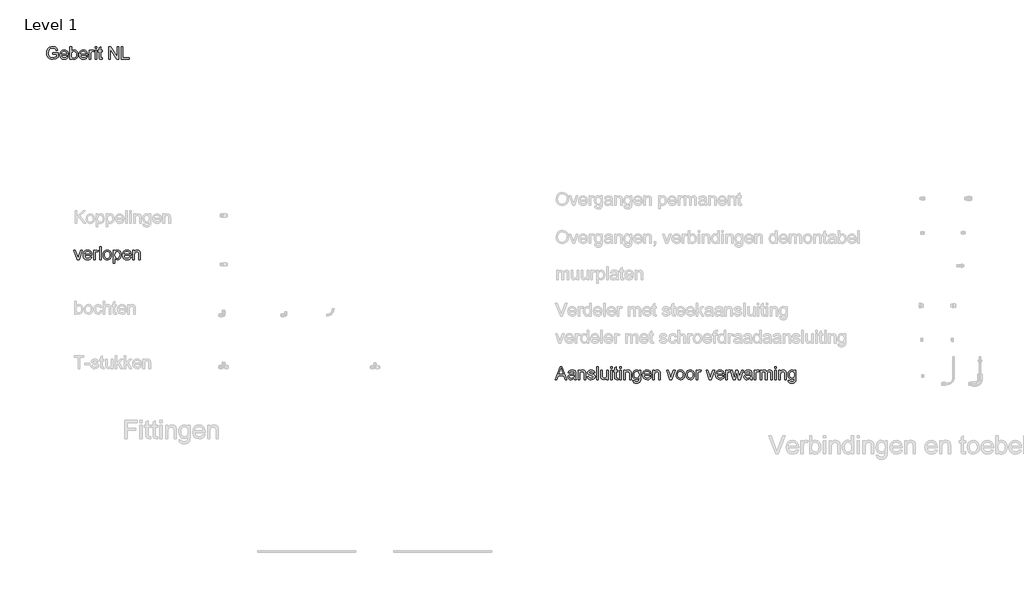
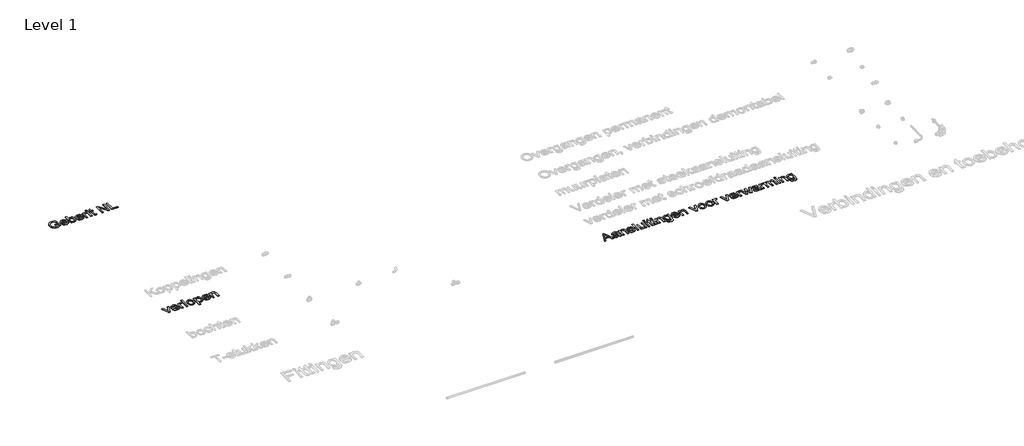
# One storey, part 4 of 9: 3 proxies.
"""IFC4 building model written with IfcOpenShell, lengths in millimetres."""

from ifc_helpers import new_model, si_unit, origin, origin_with_axes, place, context, project, spatial, polyline, outline, extrude, element, save

model = new_model("IFC4")

# Units and contexts
model_context = context("Model", 3, world=origin())
ifc_project = project(units=[si_unit("LENGTHUNIT", "METRE", prefix="MILLI")], contexts=[model_context])

# Site, building, storey
site = spatial("IfcSite", under=ifc_project)
building = spatial("IfcBuilding", under=site)
storey = spatial("IfcBuildingStorey", under=building, Name="Level 1", Elevation=0.0)

# Proxies
placement = place(None, origin())
element("IfcBuildingElementProxy", 1, Name="small", ObjectType="small", at=placement, inside=storey, context=model_context, shape_type="SweptSolid", body=[
    extrude(outline(polyline([(-2088.7563091, 7256.493174), (-2088.7563091, 7273.7239433), (-2032.7563091, 7273.7239433), (-2032.7563091, 7222.1999048), (-2060.4029437, 7205.9450971), (-2089.6313091, 7200.493174), (-2108.961237, 7202.6596404), (-2126.4317899, 7209.1590394), (-2140.945011, 7219.7642077), (-2151.4029437, 7234.2479817), (-2157.7256601, 7251.6217798), (-2159.8332322, 7270.8970202), (-2157.7340735, 7290.3110827), (-2151.4365976, 7308.3705779), (-2141.2016216, 7323.5190154), (-2127.2899629, 7334.1999048), (-2110.3452514, 7340.5352413), (-2091.0111168, 7342.6470202), (-2064.054386, 7337.7503856), (-2045.1577514, 7324.1205779), (-2034.741886, 7301.3200971), (-2050.6265014, 7296.8441356), (-2058.4846745, 7312.7792317), (-2071.9125591, 7321.9667317), (-2091.2803476, 7325.416251), (-2113.3404437, 7321.697501), (-2128.3500591, 7311.9378856), (-2137.2178476, 7298.6614433), (-2142.6024629, 7271.603751), (-2140.9828716, 7255.1259865), (-2136.1240976, 7241.5676933), (-2128.1733764, 7231.025626), (-2117.2779437, 7223.5965394), (-2091.0111168, 7217.7239433), (-2067.4365976, 7222.149424), (-2049.9870783, 7231.5893279), (-2049.9870783, 7256.493174), (-2088.7563091, 7256.493174)])), origin_with_axes(), (0.0, 0.0, 1.0), 5.0),
    extrude(outline(polyline([(-1936.0351552, 7232.8008663), (-1919.1409245, 7230.6470202), (-1925.2280639, 7217.9174529), (-1934.9414052, 7208.4018279), (-1948.0621985, 7202.4703375), (-1964.3716937, 7200.493174), (-1984.5892418, 7203.9048327), (-2000.1457322, 7214.1398087), (-2010.0652033, 7230.5334385), (-2013.3716937, 7252.4210587), (-2010.0315495, 7275.0448567), (-2000.0111168, 7291.9643279), (-1984.6649629, 7302.5148087), (-1965.3476552, 7306.0316356), (-1946.6319101, 7302.5232221), (-1931.6769822, 7291.9979817), (-1921.8710927, 7275.1121644), (-1918.6024629, 7252.5220202), (-1918.7034245, 7247.8777894), (-1996.1409245, 7247.8777894), (-1993.1583524, 7234.9799529), (-1986.2298668, 7225.4979817), (-1976.2304677, 7219.6674529), (-1964.0351552, 7217.7239433), (-1947.1409245, 7221.3249048), (-1936.0351552, 7232.8008663)]), holes=[polyline([(-1996.1409245, 7265.1085587), (-1935.8332322, 7265.1085587), (-1942.7322706, 7280.7239433), (-1952.7779437, 7286.7816356), (-1965.4149629, 7288.8008663), (-1977.0297466, 7287.1896885), (-1986.6337129, 7282.3561548), (-1993.3097947, 7274.8219), (-1996.1409245, 7265.1085587)])]), origin_with_axes(), (0.0, 0.0, 1.0), 5.0),
    extrude(outline(polyline([(-1884.1409245, 7202.6470202), (-1901.3716937, 7202.6470202), (-1901.3716937, 7340.493174), (-1884.1409245, 7340.493174), (-1884.1409245, 7289.3729817), (-1872.0760206, 7301.8669721), (-1857.0832322, 7306.0316356), (-1839.8188091, 7302.2792317), (-1826.4245783, 7291.728751), (-1818.1962129, 7275.322501), (-1815.2178476, 7254.7768279), (-1818.3013812, 7231.774424), (-1827.5519822, 7214.6614433), (-1841.1271024, 7204.0352413), (-1857.1841937, 7200.493174), (-1872.5051072, 7205.0616837), (-1884.1409245, 7218.7672125), (-1884.1409245, 7202.6470202)]), holes=[polyline([(-1884.1409245, 7253.9691356), (-1882.9630399, 7239.5989433), (-1879.429386, 7229.8729817), (-1870.4017418, 7220.7612029), (-1858.6649629, 7217.7239433), (-1848.7202514, 7219.961924), (-1840.2226552, 7226.6758663), (-1834.3921264, 7237.8237029), (-1832.4486168, 7253.3633663), (-1834.3121985, 7269.1301933), (-1839.9029437, 7280.1518279), (-1848.1355158, 7286.6386067), (-1857.9245783, 7288.8008663), (-1867.8692899, 7286.5628856), (-1876.366886, 7279.8489433), (-1882.1974149, 7268.9030298), (-1884.1409245, 7253.9691356)])]), origin_with_axes(), (0.0, 0.0, 1.0), 5.0),
    extrude(outline(polyline([(-1724.9582322, 7232.8008663), (-1708.0640014, 7230.6470202), (-1714.1511408, 7217.9174529), (-1723.8644822, 7208.4018279), (-1736.9852754, 7202.4703375), (-1753.2947706, 7200.493174), (-1773.5123187, 7203.9048327), (-1789.0688091, 7214.1398087), (-1798.9882802, 7230.5334385), (-1802.2947706, 7252.4210587), (-1798.9546264, 7275.0448567), (-1788.9341937, 7291.9643279), (-1773.5880399, 7302.5148087), (-1754.2707322, 7306.0316356), (-1735.554987, 7302.5232221), (-1720.6000591, 7291.9979817), (-1710.7941697, 7275.1121644), (-1707.5255399, 7252.5220202), (-1707.6265014, 7247.8777894), (-1785.0640014, 7247.8777894), (-1782.0814293, 7234.9799529), (-1775.1529437, 7225.4979817), (-1765.1535447, 7219.6674529), (-1752.9582322, 7217.7239433), (-1736.0640014, 7221.3249048), (-1724.9582322, 7232.8008663)]), holes=[polyline([(-1785.0640014, 7265.1085587), (-1724.7563091, 7265.1085587), (-1731.6553476, 7280.7239433), (-1741.7010206, 7286.7816356), (-1754.3380399, 7288.8008663), (-1765.9528235, 7287.1896885), (-1775.5567899, 7282.3561548), (-1782.2328716, 7274.8219), (-1785.0640014, 7265.1085587)])]), origin_with_axes(), (0.0, 0.0, 1.0), 5.0),
    extrude(outline(polyline([(-1690.2947706, 7202.6470202), (-1690.2947706, 7303.8777894), (-1675.2178476, 7303.8777894), (-1675.2178476, 7288.9018279), (-1664.5159245, 7302.6999048), (-1653.7466937, 7306.0316356), (-1636.4486168, 7300.7143279), (-1642.2034245, 7285.2672125), (-1654.3188091, 7288.8008663), (-1664.0615976, 7285.4018279), (-1670.2707322, 7275.978751), (-1673.0640014, 7255.853751), (-1673.0640014, 7202.6470202), (-1690.2947706, 7202.6470202)])), origin_with_axes(), (0.0, 0.0, 1.0), 5.0),
    extrude(outline(polyline([(-1625.679386, 7202.6470202), (-1625.679386, 7303.8777894), (-1608.4486168, 7303.8777894), (-1608.4486168, 7202.6470202), (-1625.679386, 7202.6470202)])), origin_with_axes(), (0.0, 0.0, 1.0), 5.0),
    extrude(outline(polyline([(-1625.679386, 7323.2624048), (-1625.679386, 7340.493174), (-1608.4486168, 7340.493174), (-1608.4486168, 7323.2624048), (-1625.679386, 7323.2624048)])), origin_with_axes(), (0.0, 0.0, 1.0), 5.0),
    extrude(outline(polyline([(-1545.9870783, 7217.0172125), (-1543.8332322, 7202.1422125), (-1556.7226552, 7200.493174), (-1571.1601552, 7203.353751), (-1578.3620783, 7210.8585587), (-1580.4486168, 7230.4114433), (-1580.4486168, 7286.6470202), (-1593.3716937, 7286.6470202), (-1593.3716937, 7303.8777894), (-1580.4486168, 7303.8777894), (-1580.4486168, 7328.478751), (-1563.2178476, 7338.6085587), (-1563.2178476, 7303.8777894), (-1545.9870783, 7303.8777894), (-1545.9870783, 7286.6470202), (-1563.2178476, 7286.6470202), (-1563.2178476, 7230.916251), (-1562.3091937, 7222.0316356), (-1559.3644822, 7218.885001), (-1553.491886, 7217.7239433), (-1545.9870783, 7217.0172125)])), origin_with_axes(), (0.0, 0.0, 1.0), 5.0),
    extrude(outline(polyline([(-1472.7563091, 7202.6470202), (-1472.7563091, 7340.493174), (-1454.3140014, 7340.493174), (-1382.2947706, 7231.2864433), (-1382.2947706, 7340.493174), (-1365.0640014, 7340.493174), (-1365.0640014, 7202.6470202), (-1383.5063091, 7202.6470202), (-1455.5255399, 7311.8874048), (-1455.5255399, 7202.6470202), (-1472.7563091, 7202.6470202)])), origin_with_axes(), (0.0, 0.0, 1.0), 5.0),
    extrude(outline(polyline([(-1334.9101552, 7202.6470202), (-1334.9101552, 7340.493174), (-1317.679386, 7340.493174), (-1317.679386, 7219.8777894), (-1248.7563091, 7219.8777894), (-1248.7563091, 7202.6470202), (-1334.9101552, 7202.6470202)])), origin_with_axes(), (0.0, 0.0, 1.0), 5.0),
])
element("IfcBuildingElementProxy", 2, Name="small", ObjectType="small", at=placement, inside=storey, context=model_context, shape_type="SweptSolid", body=[
    extrude(outline(polyline([(-1823.0624994, 4994.1526751), (-1859.3896201, 5097.4343189), (-1840.7796963, 5097.4343189), (-1818.7705428, 5035.5614724), (-1812.1437618, 5014.7540668), (-1805.6543234, 5034.3940603), (-1783.5078273, 5097.4343189), (-1764.8979034, 5097.4343189), (-1800.7786607, 4994.1526751), (-1823.0624994, 4994.1526751)])), origin_with_axes(), (0.0, 0.0, 1.0), 5.0),
    extrude(outline(polyline([(-1677.2046459, 5024.9174201), (-1659.9681482, 5022.7199383), (-1666.1786094, 5009.7324776), (-1676.0887372, 5000.0240717), (-1689.4753499, 4993.9724129), (-1706.1152657, 4991.9551933), (-1726.7424091, 4995.4359701), (-1742.6140647, 5005.8783005), (-1752.7344984, 5022.6040554), (-1756.1079763, 5044.9351057), (-1752.7001627, 5068.0172483), (-1742.4767221, 5085.2794978), (-1726.8196643, 5096.043725), (-1707.1109996, 5099.6318007), (-1688.0160846, 5096.0523089), (-1672.7581789, 5085.3138335), (-1662.753628, 5068.0859196), (-1659.4187777, 5045.0381126), (-1659.5217847, 5040.2997925), (-1738.528122, 5040.2997925), (-1735.4851247, 5027.1406536), (-1728.4162722, 5017.4665834), (-1718.2142913, 5011.5179315), (-1705.7719091, 5009.5350476), (-1688.5354114, 5013.2089624), (-1677.2046459, 5024.9174201)]), holes=[polyline([(-1738.528122, 5057.8796468), (-1676.998632, 5057.8796468), (-1684.0374409, 5073.8113898), (-1694.2866332, 5079.9918073), (-1707.1796709, 5082.0519465), (-1719.0297631, 5080.4081271), (-1728.8283, 5075.4766689), (-1735.6396352, 5067.7897746), (-1738.528122, 5057.8796468)])]), origin_with_axes(), (0.0, 0.0, 1.0), 5.0),
    extrude(outline(polyline([(-1641.8389235, 4994.1526751), (-1641.8389235, 5097.4343189), (-1626.456551, 5097.4343189), (-1626.456551, 5082.1549534), (-1615.5378133, 5096.2325711), (-1604.5504044, 5099.6318007), (-1586.9018788, 5094.2067676), (-1592.7732755, 5078.4467029), (-1605.1341105, 5082.0519465), (-1615.074282, 5078.5840455), (-1621.40921, 5068.9700627), (-1624.2590692, 5048.4373423), (-1624.2590692, 4994.1526751), (-1641.8389235, 4994.1526751)])), origin_with_axes(), (0.0, 0.0, 1.0), 5.0),
    extrude(outline(polyline([(-1575.9144699, 4994.1526751), (-1575.9144699, 5134.7915093), (-1558.3346156, 5134.7915093), (-1558.3346156, 4994.1526751), (-1575.9144699, 4994.1526751)])), origin_with_axes(), (0.0, 0.0, 1.0), 5.0),
    extrude(outline(polyline([(-1536.3597978, 5045.793497), (-1532.5571242, 5070.6954293), (-1521.1491036, 5088.1980283), (-1507.0543181, 5096.7733576), (-1490.1783447, 5099.6318007), (-1471.7100554, 5096.1510239), (-1456.9586005, 5085.7086935), (-1447.2888223, 5069.1288651), (-1444.0655629, 5047.2355944), (-1445.4904924, 5029.475478), (-1449.7652812, 5015.9558147), (-1456.7654625, 5005.831089), (-1466.3665694, 4998.2557856), (-1477.7702981, 4993.5303414), (-1490.1783447, 4991.9551933), (-1508.8698157, 4995.4230942), (-1523.6041028, 5005.8267971), (-1533.170874, 5022.7542739), (-1536.3597978, 5045.793497)]), holes=[polyline([(-1518.7799435, 5045.8278327), (-1516.7455561, 5029.9175495), (-1510.6423938, 5018.5824921), (-1501.4576066, 5011.7969087), (-1490.1783447, 5009.5350476), (-1478.9505862, 5011.8097846), (-1469.7829669, 5018.6339956), (-1463.6798046, 5030.1192715), (-1461.6454171, 5046.3772031), (-1463.6926804, 5061.8239549), (-1469.8344703, 5073.0045019), (-1479.0149655, 5079.7900853), (-1490.1783447, 5082.0519465), (-1501.4576066, 5079.7986692), (-1510.6423938, 5073.0388376), (-1516.7455561, 5061.7295319), (-1518.7799435, 5045.8278327)])]), origin_with_axes(), (0.0, 0.0, 1.0), 5.0),
    extrude(outline(polyline([(-1424.2882268, 4954.598003), (-1424.2882268, 5097.4343189), (-1406.7083725, 5097.4343189), (-1406.7083725, 5080.1978212), (-1394.5535514, 5094.7733058), (-1378.1411093, 5099.6318007), (-1366.2523895, 5097.9321859), (-1355.8572706, 5092.8333415), (-1347.3935322, 5084.6442882), (-1341.2989538, 5073.6740471), (-1336.3889554, 5046.583217), (-1341.9341634, 5018.101793), (-1348.7326226, 5006.9255379), (-1358.0375846, 4998.7021491), (-1368.874775, 4993.6419322), (-1380.2699198, 4991.9551933), (-1395.5664532, 4996.4703316), (-1406.7083725, 5007.8869362), (-1406.7083725, 4954.598003), (-1424.2882268, 4954.598003)]), holes=[polyline([(-1406.7083725, 5044.9694413), (-1404.8070357, 5029.2093767), (-1399.1030254, 5018.1876321), (-1390.6864985, 5011.6981937), (-1380.647612, 5009.5350476), (-1370.4456311, 5011.7754489), (-1361.8145064, 5018.496653), (-1355.9302339, 5029.9218415), (-1353.9688097, 5046.2741961), (-1355.8830223, 5061.9484217), (-1361.6256603, 5073.1246767), (-1370.0293113, 5079.820129), (-1379.9265633, 5082.0519465), (-1389.8624428, 5079.6784944), (-1398.5879906, 5072.5581384), (-1404.678277, 5060.9140601), (-1406.7083725, 5044.9694413)])]), origin_with_axes(), (0.0, 0.0, 1.0), 5.0),
    extrude(outline(polyline([(-1244.3007344, 5024.9174201), (-1227.0642366, 5022.7199383), (-1233.2746978, 5009.7324776), (-1243.1848257, 5000.0240717), (-1256.5714383, 4993.9724129), (-1273.2113541, 4991.9551933), (-1293.8384976, 4995.4359701), (-1309.7101531, 5005.8783005), (-1319.8305868, 5022.6040554), (-1323.2040647, 5044.9351057), (-1319.7962512, 5068.0172483), (-1309.5728105, 5085.2794978), (-1293.9157528, 5096.043725), (-1274.207088, 5099.6318007), (-1255.1121731, 5096.0523089), (-1239.8542673, 5085.3138335), (-1229.8497165, 5068.0859196), (-1226.5148662, 5045.0381126), (-1226.6178731, 5040.2997925), (-1305.6242104, 5040.2997925), (-1302.5812132, 5027.1406536), (-1295.5123607, 5017.4665834), (-1285.3103798, 5011.5179315), (-1272.8679976, 5009.5350476), (-1255.6314998, 5013.2089624), (-1244.3007344, 5024.9174201)]), holes=[polyline([(-1305.6242104, 5057.8796468), (-1244.0947205, 5057.8796468), (-1251.1335293, 5073.8113898), (-1261.3827217, 5079.9918073), (-1274.2757593, 5082.0519465), (-1286.1258515, 5080.4081271), (-1295.9243885, 5075.4766689), (-1302.7357236, 5067.7897746), (-1305.6242104, 5057.8796468)])]), origin_with_axes(), (0.0, 0.0, 1.0), 5.0),
    extrude(outline(polyline([(-1208.9350119, 4994.1526751), (-1208.9350119, 5097.4343189), (-1191.3551576, 5097.4343189), (-1191.3551576, 5083.0133447), (-1177.9127495, 5095.4771867), (-1159.5603431, 5099.6318007), (-1142.9590549, 5096.2840746), (-1131.6282894, 5087.4941474), (-1126.3577667, 5074.5667741), (-1125.4307041, 5057.5706259), (-1125.4307041, 4994.1526751), (-1143.0105584, 4994.1526751), (-1143.0105584, 5055.2014659), (-1145.0363619, 5070.7555167), (-1152.1953455, 5078.9789055), (-1164.2643275, 5082.0519465), (-1174.5607314, 5080.3265799), (-1183.3377827, 5075.1504802), (-1189.3508139, 5065.1502213), (-1191.3551576, 5048.9523771), (-1191.3551576, 4994.1526751), (-1208.9350119, 4994.1526751)])), origin_with_axes(), (0.0, 0.0, 1.0), 5.0),
])
element("IfcBuildingElementProxy", 3, Name="small", ObjectType="small", at=placement, inside=storey, context=model_context, shape_type="SweptSolid", body=[
    extrude(outline(polyline([(3446.8128766, 3672.8496905), (3502.9516691, 3813.4885247), (3517.9220138, 3813.4885247), (3574.0608062, 3672.8496905), (3555.485218, 3672.8496905), (3539.3817968, 3716.7993262), (3481.4575504, 3716.7993262), (3465.3884648, 3672.8496905), (3446.8128766, 3672.8496905)]), holes=[polyline([(3487.9126531, 3734.3791804), (3532.9610297, 3734.3791804), (3520.2911738, 3768.9551829), (3510.4368414, 3795.9086704), (3501.6812499, 3771.9767204), (3487.9126531, 3734.3791804)])]), origin_with_axes(), (0.0, 0.0, 1.0), 5.0),
    extrude(outline(polyline([(3656.5693801, 3686.0345812), (3639.5217284, 3674.1201096), (3620.6886228, 3670.6522087), (3605.9972554, 3672.7380996), (3595.1600649, 3678.9957723), (3588.4774885, 3688.4981643), (3586.249963, 3700.3182128), (3589.614857, 3714.2241522), (3598.4562876, 3724.3188342), (3610.7656191, 3730.0872238), (3625.9763134, 3732.7310691), (3656.4663731, 3738.774144), (3656.5693801, 3742.6884084), (3655.3590483, 3750.5341051), (3651.728053, 3755.6672852), (3643.6076711, 3759.4785427), (3632.2940735, 3760.7489619), (3614.5082053, 3757.3669001), (3606.0272991, 3745.3665894), (3588.4474448, 3747.5640712), (3596.0527919, 3764.7318976), (3611.3664931, 3774.7922439), (3634.5602266, 3778.3288161), (3655.8654992, 3775.2042717), (3667.9001455, 3767.358575), (3673.2908431, 3755.4269357), (3674.1492344, 3740.0445632), (3674.1492344, 3718.1727523), (3675.0419613, 3687.631189), (3678.5441979, 3672.8496905), (3660.9643437, 3672.8496905), (3656.5693801, 3686.0345812)]), holes=[polyline([(3656.5693801, 3721.1942897), (3628.2081308, 3715.8035922), (3613.0832757, 3712.953733), (3606.233313, 3708.3184199), (3603.8298173, 3701.5542963), (3609.0660043, 3692.0433204), (3624.431209, 3688.232063), (3642.2170772, 3692.4381804), (3653.6851853, 3702.6187015), (3656.4663731, 3716.2156201), (3656.5693801, 3721.1942897)])]), origin_with_axes(), (0.0, 0.0, 1.0), 5.0),
    extrude(outline(polyline([(3698.321534, 3672.8496905), (3698.321534, 3776.1313344), (3715.9013883, 3776.1313344), (3715.9013883, 3761.7103601), (3729.3437964, 3774.1742021), (3747.6962028, 3778.3288161), (3764.297491, 3774.98109), (3775.6282565, 3766.1911628), (3780.8987792, 3753.2637895), (3781.8258418, 3736.2676414), (3781.8258418, 3672.8496905), (3764.2459875, 3672.8496905), (3764.2459875, 3733.8984813), (3762.220184, 3749.4525321), (3755.0612004, 3757.6759209), (3742.9922184, 3760.7489619), (3732.6958145, 3759.0235953), (3723.9187632, 3753.8474956), (3717.905732, 3743.8472367), (3715.9013883, 3727.6493925), (3715.9013883, 3672.8496905), (3698.321534, 3672.8496905)])), origin_with_axes(), (0.0, 0.0, 1.0), 5.0),
    extrude(outline(polyline([(3799.4056961, 3703.6144355), (3816.9855504, 3705.8119172), (3819.7581543, 3698.2924093), (3825.1231001, 3692.7643692), (3843.7673596, 3688.232063), (3861.6905704, 3692.386677), (3867.5276314, 3702.1380024), (3861.6562348, 3710.0352026), (3843.5613457, 3715.0482079), (3817.0885573, 3723.6492889), (3805.5346101, 3733.6924674), (3801.6031779, 3747.873092), (3804.7620579, 3760.9721436), (3813.3803068, 3770.9809864), (3824.5565618, 3776.1828378), (3839.6814169, 3778.3288161), (3861.0725287, 3774.878083), (3874.6694472, 3765.5387854), (3880.7125221, 3749.7615529), (3863.1326678, 3747.5640712), (3856.5230547, 3757.2638931), (3841.054843, 3760.7489619), (3824.2303731, 3757.4184035), (3819.1830322, 3749.658546), (3821.277507, 3744.5425337), (3827.8356167, 3740.6626049), (3842.9776396, 3736.9200188), (3868.7808827, 3728.6451264), (3880.7640256, 3719.2714932), (3885.1074857, 3703.9921276), (3880.0086412, 3687.1676577), (3865.295814, 3674.9613331), (3843.52701, 3670.6522087), (3825.8012292, 3672.7295157), (3812.865272, 3678.9614367), (3804.2298553, 3689.2793004), (3799.4056961, 3703.6144355)])), origin_with_axes(), (0.0, 0.0, 1.0), 5.0),
    extrude(outline(polyline([(3904.8848217, 3672.8496905), (3904.8848217, 3813.4885247), (3922.464676, 3813.4885247), (3922.464676, 3672.8496905), (3904.8848217, 3672.8496905)])), origin_with_axes(), (0.0, 0.0, 1.0), 5.0),
    extrude(outline(polyline([(4014.758911, 3672.8496905), (4014.758911, 3690.601223), (4000.9903142, 3675.6394623), (3983.0327677, 3670.6522087), (3966.5001508, 3674.1544453), (3955.1007141, 3682.9443724), (3949.864527, 3695.8889136), (3948.8344574, 3712.2326843), (3948.8344574, 3776.1313344), (3966.4143117, 3776.1313344), (3966.4143117, 3720.5075767), (3967.478717, 3702.5843659), (3974.4316867, 3692.0604883), (3987.5307382, 3688.232063), (4002.2092298, 3692.1463274), (4011.9090518, 3702.8075476), (4014.758911, 3722.3960376), (4014.758911, 3776.1313344), (4032.3387652, 3776.1313344), (4032.3387652, 3672.8496905), (4014.758911, 3672.8496905)])), origin_with_axes(), (0.0, 0.0, 1.0), 5.0),
    extrude(outline(polyline([(4056.5110649, 3672.8496905), (4056.5110649, 3776.1313344), (4074.0909192, 3776.1313344), (4074.0909192, 3672.8496905), (4056.5110649, 3672.8496905)])), origin_with_axes(), (0.0, 0.0, 1.0), 5.0),
    extrude(outline(polyline([(4056.5110649, 3795.9086704), (4056.5110649, 3813.4885247), (4074.0909192, 3813.4885247), (4074.0909192, 3795.9086704), (4056.5110649, 3795.9086704)])), origin_with_axes(), (0.0, 0.0, 1.0), 5.0),
    extrude(outline(polyline([(4137.8178909, 3687.5110143), (4140.0153727, 3672.3346557), (4126.8648176, 3670.6522087), (4112.1348225, 3673.5707392), (4104.7869928, 3681.2275898), (4102.6581824, 3701.1766041), (4102.6581824, 3758.5514801), (4089.4732916, 3758.5514801), (4089.4732916, 3776.1313344), (4102.6581824, 3776.1313344), (4102.6581824, 3801.2306966), (4120.2380366, 3811.5657281), (4120.2380366, 3776.1313344), (4137.8178909, 3776.1313344), (4137.8178909, 3758.5514801), (4120.2380366, 3758.5514801), (4120.2380366, 3701.6916389), (4121.1650993, 3692.6270265), (4124.1694689, 3689.416643), (4130.1610403, 3688.232063), (4137.8178909, 3687.5110143)])), origin_with_axes(), (0.0, 0.0, 1.0), 5.0),
    extrude(outline(polyline([(4155.3977452, 3672.8496905), (4155.3977452, 3776.1313344), (4172.9775995, 3776.1313344), (4172.9775995, 3672.8496905), (4155.3977452, 3672.8496905)])), origin_with_axes(), (0.0, 0.0, 1.0), 5.0),
    extrude(outline(polyline([(4155.3977452, 3795.9086704), (4155.3977452, 3813.4885247), (4172.9775995, 3813.4885247), (4172.9775995, 3795.9086704), (4155.3977452, 3795.9086704)])), origin_with_axes(), (0.0, 0.0, 1.0), 5.0),
    extrude(outline(polyline([(4199.3473809, 3672.8496905), (4199.3473809, 3776.1313344), (4216.9272351, 3776.1313344), (4216.9272351, 3761.7103601), (4230.3696433, 3774.1742021), (4248.7220497, 3778.3288161), (4265.3233379, 3774.98109), (4276.6541033, 3766.1911628), (4281.9246261, 3753.2637895), (4282.8516887, 3736.2676414), (4282.8516887, 3672.8496905), (4265.2718344, 3672.8496905), (4265.2718344, 3733.8984813), (4263.2460309, 3749.4525321), (4256.0870473, 3757.6759209), (4244.0180653, 3760.7489619), (4233.7216614, 3759.0235953), (4224.9446101, 3753.8474956), (4218.9315789, 3743.8472367), (4216.9272351, 3727.6493925), (4216.9272351, 3672.8496905), (4199.3473809, 3672.8496905)])), origin_with_axes(), (0.0, 0.0, 1.0), 5.0),
    extrude(outline(polyline([(4302.6290247, 3664.0597633), (4320.208879, 3661.8622816), (4325.9085974, 3652.5916553), (4342.9734169, 3648.6773908), (4360.965299, 3653.1066901), (4369.5492122, 3665.5361964), (4370.7509601, 3686.0345812), (4358.3729572, 3676.1459132), (4343.2824378, 3672.8496905), (4325.157505, 3676.6866997), (4311.6421336, 3688.1977273), (4303.2341906, 3705.0737007), (4300.431543, 3725.0055472), (4305.4617161, 3752.2508878), (4311.6163819, 3763.31126), (4320.0200329, 3771.5303569), (4330.3851081, 3776.6292013), (4342.4240464, 3778.3288161), (4358.1068559, 3774.483223), (4370.7509601, 3762.9464436), (4370.7509601, 3776.1313344), (4388.3308143, 3776.1313344), (4388.3308143, 3686.9616438), (4387.1290665, 3666.373128), (4383.5238229, 3652.814837), (4377.3133617, 3643.8231879), (4368.2959609, 3636.9345976), (4356.6690504, 3632.5568018), (4342.6300604, 3631.0975366), (4326.2734137, 3633.1533838), (4313.3932519, 3639.3209254), (4305.1312354, 3649.6173293), (4302.6290247, 3664.0597633)]), holes=[polyline([(4318.0113972, 3726.2072951), (4319.8869823, 3710.0824141), (4325.5137374, 3698.9962901), (4333.9731839, 3692.5712311), (4344.346843, 3690.4295448), (4354.6432469, 3692.5583552), (4363.145613, 3698.9447867), (4368.8496233, 3709.889276), (4370.7509601, 3725.6922603), (4368.7938279, 3740.9329982), (4362.9224312, 3751.9075312), (4354.2955984, 3758.5386042), (4344.0721578, 3760.7489619), (4334.0332713, 3758.5729399), (4325.6167444, 3752.0448739), (4319.912734, 3741.2334352), (4318.0113972, 3726.2072951)])]), origin_with_axes(), (0.0, 0.0, 1.0), 5.0),
    extrude(outline(polyline([(4487.0114807, 3703.6144355), (4504.2479785, 3701.4169537), (4498.0375173, 3688.429493), (4488.1273894, 3678.7210871), (4474.7407768, 3672.6694283), (4458.100861, 3670.6522087), (4437.4737175, 3674.1329855), (4421.602062, 3684.5753159), (4411.4816283, 3701.3010708), (4408.1081504, 3723.6321211), (4411.515964, 3746.7142637), (4421.7394046, 3763.9765132), (4437.3964623, 3774.7407404), (4457.1051271, 3778.3288161), (4476.200042, 3774.7493243), (4491.4579478, 3764.0108489), (4501.4624986, 3746.782935), (4504.7973489, 3723.7351281), (4504.694342, 3718.996808), (4425.6880047, 3718.996808), (4428.7310019, 3705.837669), (4435.7998545, 3696.1635988), (4446.0018353, 3690.2149469), (4458.4442175, 3688.232063), (4475.6807153, 3691.9059778), (4487.0114807, 3703.6144355)]), holes=[polyline([(4425.6880047, 3736.5766622), (4487.2174946, 3736.5766622), (4480.1786858, 3752.5084052), (4469.9294934, 3758.6888227), (4457.0364558, 3760.7489619), (4445.1863636, 3759.1051425), (4435.3878266, 3754.1736843), (4428.5764915, 3746.48679), (4425.6880047, 3736.5766622)])]), origin_with_axes(), (0.0, 0.0, 1.0), 5.0),
    extrude(outline(polyline([(4522.3772032, 3672.8496905), (4522.3772032, 3776.1313344), (4539.9570575, 3776.1313344), (4539.9570575, 3761.7103601), (4553.3994656, 3774.1742021), (4571.751872, 3778.3288161), (4588.3531602, 3774.98109), (4599.6839257, 3766.1911628), (4604.9544484, 3753.2637895), (4605.881511, 3736.2676414), (4605.881511, 3672.8496905), (4588.3016567, 3672.8496905), (4588.3016567, 3733.8984813), (4586.2758532, 3749.4525321), (4579.1168696, 3757.6759209), (4567.0478876, 3760.7489619), (4556.7514837, 3759.0235953), (4547.9744324, 3753.8474956), (4541.9614012, 3743.8472367), (4539.9570575, 3727.6493925), (4539.9570575, 3672.8496905), (4522.3772032, 3672.8496905)])), origin_with_axes(), (0.0, 0.0, 1.0), 5.0),
    extrude(outline(polyline([(4710.3305671, 3672.8496905), (4674.0034463, 3776.1313344), (4692.6133702, 3776.1313344), (4714.6225237, 3714.2584879), (4721.2493047, 3693.4510822), (4727.7387431, 3713.0910757), (4749.8852392, 3776.1313344), (4768.4951631, 3776.1313344), (4732.6144058, 3672.8496905), (4710.3305671, 3672.8496905)])), origin_with_axes(), (0.0, 0.0, 1.0), 5.0),
    extrude(outline(polyline([(4779.482572, 3724.4905124), (4783.2852455, 3749.3924447), (4794.6932662, 3766.8950437), (4808.7880517, 3775.470373), (4825.6640251, 3778.3288161), (4844.1323144, 3774.8480393), (4858.8837693, 3764.4057089), (4868.5535475, 3747.8258805), (4871.7768069, 3725.9326098), (4870.3518773, 3708.1724934), (4866.0770886, 3694.6528301), (4859.0769073, 3684.5281044), (4849.4758004, 3676.952801), (4838.0720717, 3672.2273568), (4825.6640251, 3670.6522087), (4806.9725541, 3674.1201096), (4792.238267, 3684.5238125), (4782.6714957, 3701.4512893), (4779.482572, 3724.4905124)]), holes=[polyline([(4797.0624263, 3724.5248481), (4799.0968137, 3708.6145649), (4805.199976, 3697.2795075), (4814.3847631, 3690.4939241), (4825.6640251, 3688.232063), (4836.8917836, 3690.5068), (4846.0594029, 3697.331011), (4852.1625652, 3708.8162869), (4854.1969527, 3725.0742185), (4852.1496894, 3740.5209704), (4846.0078994, 3751.7015173), (4836.8274043, 3758.4871007), (4825.6640251, 3760.7489619), (4814.3847631, 3758.4956846), (4805.199976, 3751.735853), (4799.0968137, 3740.4265473), (4797.0624263, 3724.5248481)])]), origin_with_axes(), (0.0, 0.0, 1.0), 5.0),
    extrude(outline(polyline([(4887.1591794, 3724.4905124), (4890.961853, 3749.3924447), (4902.3698737, 3766.8950437), (4916.4646592, 3775.470373), (4933.3406326, 3778.3288161), (4951.8089219, 3774.8480393), (4966.5603767, 3764.4057089), (4976.230155, 3747.8258805), (4979.4534144, 3725.9326098), (4978.0284848, 3708.1724934), (4973.753696, 3694.6528301), (4966.7535148, 3684.5281044), (4957.1524078, 3676.952801), (4945.7486791, 3672.2273568), (4933.3406326, 3670.6522087), (4914.6491615, 3674.1201096), (4899.9148745, 3684.5238125), (4890.3481032, 3701.4512893), (4887.1591794, 3724.4905124)]), holes=[polyline([(4904.7390337, 3724.5248481), (4906.7734211, 3708.6145649), (4912.8765834, 3697.2795075), (4922.0613706, 3690.4939241), (4933.3406326, 3688.232063), (4944.568391, 3690.5068), (4953.7360104, 3697.331011), (4959.8391727, 3708.8162869), (4961.8735601, 3725.0742185), (4959.8262968, 3740.5209704), (4953.6845069, 3751.7015173), (4944.5040117, 3758.4871007), (4933.3406326, 3760.7489619), (4922.0613706, 3758.4956846), (4912.8765834, 3751.735853), (4906.7734211, 3740.4265473), (4904.7390337, 3724.5248481)])]), origin_with_axes(), (0.0, 0.0, 1.0), 5.0),
    extrude(outline(polyline([(4999.2307504, 3672.8496905), (4999.2307504, 3776.1313344), (5014.6131229, 3776.1313344), (5014.6131229, 3760.8519688), (5025.5318605, 3774.9295865), (5036.5192695, 3778.3288161), (5054.1677951, 3772.903783), (5048.2963984, 3757.1437183), (5035.9355634, 3760.7489619), (5025.9953919, 3757.2810609), (5019.6604639, 3747.6670781), (5016.8106047, 3727.1343577), (5016.8106047, 3672.8496905), (4999.2307504, 3672.8496905)])), origin_with_axes(), (0.0, 0.0, 1.0), 5.0),
    extrude(outline(polyline([(5145.4319604, 3672.8496905), (5109.1048397, 3776.1313344), (5127.7147635, 3776.1313344), (5149.723917, 3714.2584879), (5156.350698, 3693.4510822), (5162.8401364, 3713.0910757), (5184.9866325, 3776.1313344), (5203.5965564, 3776.1313344), (5167.7157991, 3672.8496905), (5145.4319604, 3672.8496905)])), origin_with_axes(), (0.0, 0.0, 1.0), 5.0),
    extrude(outline(polyline([(5291.2898139, 3703.6144355), (5308.5263116, 3701.4169537), (5302.3158504, 3688.429493), (5292.4057226, 3678.7210871), (5279.0191099, 3672.6694283), (5262.3791941, 3670.6522087), (5241.7520507, 3674.1329855), (5225.8803951, 3684.5753159), (5215.7599614, 3701.3010708), (5212.3864835, 3723.6321211), (5215.7942971, 3746.7142637), (5226.0177377, 3763.9765132), (5241.6747954, 3774.7407404), (5261.3834602, 3778.3288161), (5280.4783752, 3774.7493243), (5295.7362809, 3764.0108489), (5305.7408318, 3746.782935), (5309.0756821, 3723.7351281), (5308.9726751, 3718.996808), (5229.9663378, 3718.996808), (5233.0093351, 3705.837669), (5240.0781876, 3696.1635988), (5250.2801685, 3690.2149469), (5262.7225507, 3688.232063), (5279.9590484, 3691.9059778), (5291.2898139, 3703.6144355)]), holes=[polyline([(5229.9663378, 3736.5766622), (5291.4958278, 3736.5766622), (5284.4570189, 3752.5084052), (5274.2078266, 3758.6888227), (5261.3147889, 3760.7489619), (5249.4646967, 3759.1051425), (5239.6661598, 3754.1736843), (5232.8548246, 3746.48679), (5229.9663378, 3736.5766622)])]), origin_with_axes(), (0.0, 0.0, 1.0), 5.0),
    extrude(outline(polyline([(5326.6555363, 3672.8496905), (5326.6555363, 3776.1313344), (5342.0379088, 3776.1313344), (5342.0379088, 3760.8519688), (5352.9566464, 3774.9295865), (5363.9440554, 3778.3288161), (5381.5925809, 3772.903783), (5375.7211843, 3757.1437183), (5363.3603493, 3760.7489619), (5353.4201778, 3757.2810609), (5347.0852498, 3747.6670781), (5344.2353906, 3727.1343577), (5344.2353906, 3672.8496905), (5326.6555363, 3672.8496905)])), origin_with_axes(), (0.0, 0.0, 1.0), 5.0),
    extrude(outline(polyline([(5409.7134807, 3672.8496905), (5378.2963583, 3776.1313344), (5396.5629256, 3776.1313344), (5414.3831294, 3715.8722635), (5419.7051556, 3694.3438092), (5424.0657836, 3715.0825435), (5438.2464082, 3776.1313344), (5459.1911565, 3776.1313344), (5473.3031098, 3715.2542218), (5477.1830386, 3696.4726197), (5482.7454143, 3716.2842914), (5500.5999538, 3776.1313344), (5518.9351925, 3776.1313344), (5487.2777205, 3672.8496905), (5466.0239514, 3672.8496905), (5452.5300398, 3733.4177822), (5448.6157754, 3752.3023912), (5431.2075994, 3672.8496905), (5409.7134807, 3672.8496905)])), origin_with_axes(), (0.0, 0.0, 1.0), 5.0),
    extrude(outline(polyline([(5596.9457958, 3686.0345812), (5579.8981442, 3674.1201096), (5561.0650386, 3670.6522087), (5546.3736711, 3672.7380996), (5535.5364806, 3678.9957723), (5528.8539042, 3688.4981643), (5526.6263787, 3700.3182128), (5529.9912727, 3714.2241522), (5538.8327033, 3724.3188342), (5551.1420349, 3730.0872238), (5566.3527291, 3732.7310691), (5596.8427889, 3738.774144), (5596.9457958, 3742.6884084), (5595.7354641, 3750.5341051), (5592.1044688, 3755.6672852), (5583.9840869, 3759.4785427), (5572.6704892, 3760.7489619), (5554.884621, 3757.3669001), (5546.4037148, 3745.3665894), (5528.8238605, 3747.5640712), (5536.4292076, 3764.7318976), (5551.7429088, 3774.7922439), (5574.9366423, 3778.3288161), (5596.2419149, 3775.2042717), (5608.2765613, 3767.358575), (5613.6672588, 3755.4269357), (5614.5256501, 3740.0445632), (5614.5256501, 3718.1727523), (5615.4183771, 3687.631189), (5618.9206137, 3672.8496905), (5601.3407594, 3672.8496905), (5596.9457958, 3686.0345812)]), holes=[polyline([(5596.9457958, 3721.1942897), (5568.5845465, 3715.8035922), (5553.4596915, 3712.953733), (5546.6097287, 3708.3184199), (5544.206233, 3701.5542963), (5549.4424201, 3692.0433204), (5564.8076247, 3688.232063), (5582.5934929, 3692.4381804), (5594.061601, 3702.6187015), (5596.8427889, 3716.2156201), (5596.9457958, 3721.1942897)])]), origin_with_axes(), (0.0, 0.0, 1.0), 5.0),
    extrude(outline(polyline([(5638.6979497, 3672.8496905), (5638.6979497, 3776.1313344), (5654.0803222, 3776.1313344), (5654.0803222, 3760.8519688), (5664.9990598, 3774.9295865), (5675.9864688, 3778.3288161), (5693.6349943, 3772.903783), (5687.7635977, 3757.1437183), (5675.4027627, 3760.7489619), (5665.4625912, 3757.2810609), (5659.1276632, 3747.6670781), (5656.277804, 3727.1343577), (5656.277804, 3672.8496905), (5638.6979497, 3672.8496905)])), origin_with_axes(), (0.0, 0.0, 1.0), 5.0),
    extrude(outline(polyline([(5704.6224033, 3672.8496905), (5704.6224033, 3776.1313344), (5722.2022575, 3776.1313344), (5722.2022575, 3759.1351862), (5734.2884074, 3773.0582934), (5751.4905695, 3778.3288161), (5769.1047594, 3772.9552865), (5778.7874135, 3757.8991027), (5792.5045068, 3773.2213878), (5809.8268437, 3778.3288161), (5823.0417781, 3776.2042976), (5832.8145633, 3769.830742), (5838.8533463, 3759.0364712), (5840.8662739, 3743.6498067), (5840.8662739, 3672.8496905), (5823.2864196, 3672.8496905), (5823.2864196, 3736.0959631), (5821.6554761, 3750.7744547), (5815.7497438, 3758.0021096), (5805.7065654, 3760.7489619), (5796.1827136, 3758.9892596), (5788.4185641, 3753.710153), (5783.2553403, 3744.5511176), (5781.5342657, 3731.1516291), (5781.5342657, 3672.8496905), (5763.9544115, 3672.8496905), (5763.9544115, 3738.0530953), (5759.8856366, 3755.0835791), (5754.5163989, 3759.3326162), (5746.5462354, 3760.7489619), (5733.533023, 3756.97204), (5724.8804385, 3745.9159598), (5722.2022575, 3724.9368759), (5722.2022575, 3672.8496905), (5704.6224033, 3672.8496905)])), origin_with_axes(), (0.0, 0.0, 1.0), 5.0),
    extrude(outline(polyline([(5867.2360553, 3795.9086704), (5867.2360553, 3813.4885247), (5884.8159096, 3813.4885247), (5884.8159096, 3795.9086704), (5867.2360553, 3795.9086704)])), origin_with_axes(), (0.0, 0.0, 1.0), 5.0),
    extrude(outline(polyline([(5867.2360553, 3672.8496905), (5867.2360553, 3776.1313344), (5884.8159096, 3776.1313344), (5884.8159096, 3672.8496905), (5867.2360553, 3672.8496905)])), origin_with_axes(), (0.0, 0.0, 1.0), 5.0),
    extrude(outline(polyline([(5911.185691, 3672.8496905), (5911.185691, 3776.1313344), (5928.7655453, 3776.1313344), (5928.7655453, 3761.7103601), (5942.2079534, 3774.1742021), (5960.5603599, 3778.3288161), (5977.161648, 3774.98109), (5988.4924135, 3766.1911628), (5993.7629362, 3753.2637895), (5994.6899988, 3736.2676414), (5994.6899988, 3672.8496905), (5977.1101446, 3672.8496905), (5977.1101446, 3733.8984813), (5975.084341, 3749.4525321), (5967.9253574, 3757.6759209), (5955.8563754, 3760.7489619), (5945.5599715, 3759.0235953), (5936.7829202, 3753.8474956), (5930.769889, 3743.8472367), (5928.7655453, 3727.6493925), (5928.7655453, 3672.8496905), (5911.185691, 3672.8496905)])), origin_with_axes(), (0.0, 0.0, 1.0), 5.0),
    extrude(outline(polyline([(6014.4673349, 3664.0597633), (6032.0471892, 3661.8622816), (6037.7469075, 3652.5916553), (6054.811727, 3648.6773908), (6072.8036091, 3653.1066901), (6081.3875224, 3665.5361964), (6082.5892702, 3686.0345812), (6070.2112673, 3676.1459132), (6055.1207479, 3672.8496905), (6036.9958151, 3676.6866997), (6023.4804438, 3688.1977273), (6015.0725008, 3705.0737007), (6012.2698531, 3725.0055472), (6017.3000263, 3752.2508878), (6023.454692, 3763.31126), (6031.8583431, 3771.5303569), (6042.2234183, 3776.6292013), (6054.2623566, 3778.3288161), (6069.945166, 3774.483223), (6082.5892702, 3762.9464436), (6082.5892702, 3776.1313344), (6100.1691245, 3776.1313344), (6100.1691245, 3686.9616438), (6098.9673766, 3666.373128), (6095.3621331, 3652.814837), (6089.1516719, 3643.8231879), (6080.134271, 3636.9345976), (6068.5073606, 3632.5568018), (6054.4683705, 3631.0975366), (6038.1117239, 3633.1533838), (6025.2315621, 3639.3209254), (6016.9695456, 3649.6173293), (6014.4673349, 3664.0597633)]), holes=[polyline([(6029.8497074, 3726.2072951), (6031.7252924, 3710.0824141), (6037.3520475, 3698.9962901), (6045.811494, 3692.5712311), (6056.1851531, 3690.4295448), (6066.4815571, 3692.5583552), (6074.9839231, 3698.9447867), (6080.6879334, 3709.889276), (6082.5892702, 3725.6922603), (6080.632138, 3740.9329982), (6074.7607414, 3751.9075312), (6066.1339086, 3758.5386042), (6055.9104679, 3760.7489619), (6045.8715814, 3758.5729399), (6037.4550545, 3752.0448739), (6031.7510442, 3741.2334352), (6029.8497074, 3726.2072951)])]), origin_with_axes(), (0.0, 0.0, 1.0), 5.0),
])

save(model, "model.ifc")
